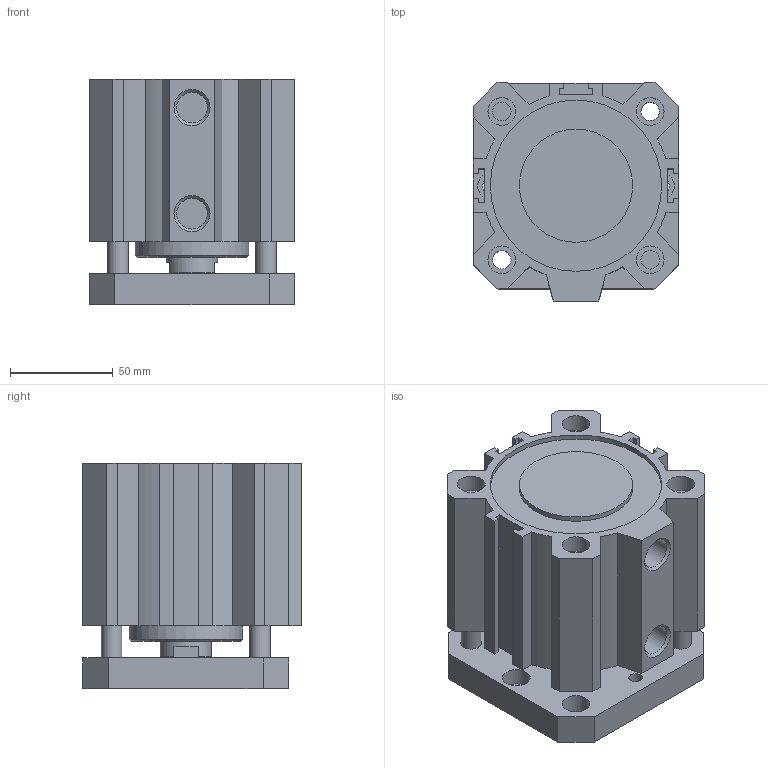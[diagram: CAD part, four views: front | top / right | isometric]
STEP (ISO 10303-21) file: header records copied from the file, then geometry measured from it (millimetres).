
FILE_DESCRIPTION(/* description */ (''),/* implementation_level */ '2;1');
FILE_NAME(/* name */ 'I:\Area Tecnica\Disegni\VARIE-3D\Componenti\1500\Ø80\15##_80_####_#\1501_80_0035_AR.stp',/* time_stamp */ '2016-08-24T14:12:20+02:00',/* author */ ('Maniean1'),/* organization */ ('Pneumax S.p.A.'),/* preprocessor_version */ 'ST-DEVELOPER v15.2',/* originating_system */ 'Autodesk Inventor 2014',/* authorisation */ '');
FILE_SCHEMA (('AUTOMOTIVE_DESIGN { 1 0 10303 214 3 1 1 }'));
Length unit declared in the file: millimetre
Products named in the file (3): C_1501_80_0035_AR; S_1501_80_0035_AR; 1501_80_0035_AR
Bounding box: 100 x 106 x 109.5 mm (x, y, z)
Volume: 640368.4 mm3; surface area: 147108.8 mm2
Topology: 2 solids, 2 shells, 139 faces, 341 edges, 228 vertices
Faces by surface type: plane 94, cylinder 40, cone 5
Full cylindrical faces by diameter (mm): 6.647 x2, 8.5 x2, 9 x4, 10 x4, 13.5 x10, 14.95 x2, 25 x2, 55 x2, 80 x2, 83.2 x2
Entity records: 4083 total; most frequent: CARTESIAN_POINT 674, DIRECTION 672, ORIENTED_EDGE 600, EDGE_CURVE 300, AXIS2_PLACEMENT_3D 232, VERTEX_POINT 222, EDGE_LOOP 216, LINE 208
